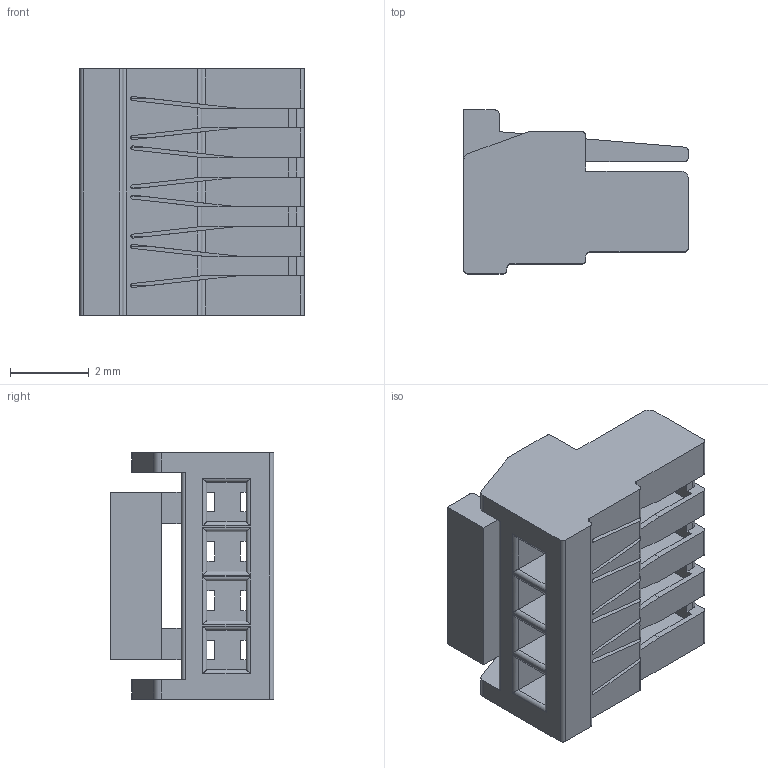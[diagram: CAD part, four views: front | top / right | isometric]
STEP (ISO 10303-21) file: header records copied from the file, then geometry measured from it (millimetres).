
FILE_DESCRIPTION(/* description */ (''),/* implementation_level */ '2;1');
FILE_NAME(/* name */ 'C:\Users\PaulT\Desktop\GrabCAD\JST_GHR-4V-S.stp',/* time_stamp */ '2019-01-29T14:12:49+01:00',/* author */ ('PaulT'),/* organization */ (''),/* preprocessor_version */ 'ST-DEVELOPER v17.2',/* originating_system */ 'Autodesk Inventor 2019',/* authorisation */ '');
FILE_SCHEMA (('AUTOMOTIVE_DESIGN { 1 0 10303 214 3 1 1 }'));
Length unit declared in the file: millimetre
Products named in the file (1): JST_GHR-6V-S
Bounding box: 5.7 x 4.15 x 6.25 mm (x, y, z)
Volume: 63.8 mm3; surface area: 292.3 mm2
Topology: 1 solids, 1 shells, 217 faces, 655 edges, 426 vertices
Faces by surface type: plane 139, cylinder 78
Entity records: 7378 total; most frequent: ORIENTED_EDGE 1310, CARTESIAN_POINT 1299, DIRECTION 1239, EDGE_CURVE 655, LINE 507, VECTOR 507, VERTEX_POINT 426, AXIS2_PLACEMENT_3D 366
